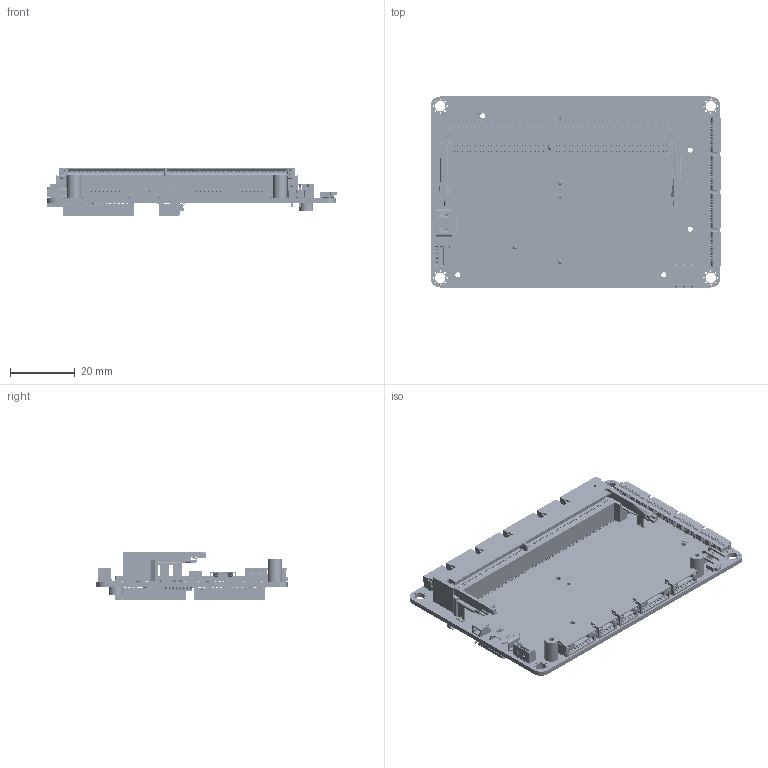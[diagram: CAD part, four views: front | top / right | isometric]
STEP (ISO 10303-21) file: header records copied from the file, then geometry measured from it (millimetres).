
FILE_DESCRIPTION(/* description */ ('KiCad electronic assembly'),/* implementation_level */ '2;1');
FILE_NAME(/* name */ 'Helios-public.step',/* time_stamp */ '2025-08-23T16:53:30+03:00',/* author */ (''),/* organization */ (''),/* preprocessor_version */ 'ST-DEVELOPER v20.1',/* originating_system */ 'Autodesk Translation Framework v14.10.0.0',/* authorisation */ '');
FILE_SCHEMA (('AUTOMOTIVE_DESIGN { 1 0 10303 214 3 1 1 }'));
Products named in the file (34): 2025-08-23-13-51-39-600; 2025-08-23-13-51-39-606; 2025-08-23-13-51-39-607; 2025-08-23-13-51-39-608; 2025-08-23-13-51-39-609; 2025-08-23-13-51-39-612; 2025-08-23-13-51-39-613; 2025-08-23-13-51-39-614; 2025-08-23-13-51-39-615; 2025-08-23-13-51-39-617; 2025-08-23-13-51-39-616; 2025-08-23-13-51-39-618; 2025-08-23-13-51-39-619; 2025-08-23-13-51-39-620; 2025-08-23-13-51-39-621; 2025-08-23-13-51-39-622; 2025-08-23-13-51-39-623; 2025-08-23-13-51-39-624; 2025-08-23-13-51-39-626; 2025-08-23-13-51-39-627; 2025-08-23-13-51-39-628; 2025-08-23-13-51-39-629; 2025-08-23-13-51-39-601; 2025-08-23-13-51-39-602; 2025-08-23-13-51-39-603; 2025-08-23-13-51-39-604; 2025-08-23-13-51-39-611; 2025-08-23-13-51-39-610; 2025-08-23-13-51-39-605; 2025-08-23-13-51-39-625; 2025-08-23-13-51-39-631; 2025-08-23-13-51-39-632; 2025-08-23-13-51-39-633; 2025-08-23-13-51-39-634
Assembly tree (47 placements, depth 3):
  2025-08-23-13-51-39-600
    2025-08-23-13-51-39-601  x4
      2025-08-23-13-51-39-602
      2025-08-23-13-51-39-603
    2025-08-23-13-51-39-604  x4
    2025-08-23-13-51-39-605  x3
    2025-08-23-13-51-39-606
      2025-08-23-13-51-39-607
      2025-08-23-13-51-39-608
      2025-08-23-13-51-39-609
    2025-08-23-13-51-39-610  x2
    2025-08-23-13-51-39-611  x3
    2025-08-23-13-51-39-612
    2025-08-23-13-51-39-613
      2025-08-23-13-51-39-614
      2025-08-23-13-51-39-615
      2025-08-23-13-51-39-616  x2
      2025-08-23-13-51-39-617
    2025-08-23-13-51-39-618
    2025-08-23-13-51-39-619
    2025-08-23-13-51-39-620
    2025-08-23-13-51-39-621
      2025-08-23-13-51-39-622
      2025-08-23-13-51-39-623
    2025-08-23-13-51-39-624
    2025-08-23-13-51-39-625  x3
    2025-08-23-13-51-39-626
    2025-08-23-13-51-39-627
      2025-08-23-13-51-39-628
      2025-08-23-13-51-39-629
    2025-08-23-13-51-39-631
    2025-08-23-13-51-39-632
      2025-08-23-13-51-39-633
    2025-08-23-13-51-39-634
Bounding box: 89.81 x 59 x 15.09 mm (x, y, z)
Volume: 16299 mm3; surface area: 25142.3 mm2
Topology: 45 solids, 46 shells, 17432 faces, 49414 edges, 32666 vertices
Faces by surface type: plane 13583, cylinder 3737, bspline 85, torus 12, cone 9, sphere 6
Full cylindrical faces by diameter (mm): 0.25 x1, 0.4 x1, 0.5 x36, 0.7 x8, 0.8 x3, 0.9 x1, 1 x3, 1.1 x1, 1.15 x3, 1.45 x3, 1.567 x5, 1.6 x1, 1.65 x3, 2.8 x5, 3 x5, 3.2 x4, 4.35 x5
Entity records: 422656 total; most frequent: CARTESIAN_POINT 79774, ORIENTED_EDGE 72004, DIRECTION 67948, EDGE_CURVE 36002, LINE 29086, VECTOR 29086, VERTEX_POINT 23832, AXIS2_PLACEMENT_3D 19431
